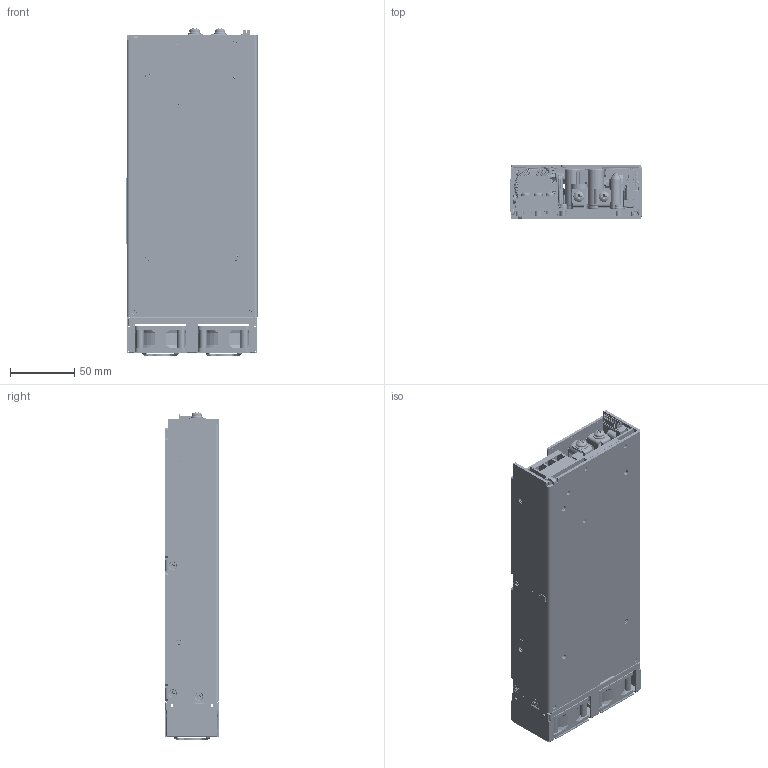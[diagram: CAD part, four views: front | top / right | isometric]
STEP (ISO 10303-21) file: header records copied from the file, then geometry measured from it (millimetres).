
FILE_DESCRIPTION (( 'STEP AP203' ), '1' );
FILE_NAME ('ASSY GSP750-EF.STEP', '2016-08-12T09:52:43', ( '' ), ( '' ), 'SwSTEP 2.0', 'SolidWorks 2015', '' );
FILE_SCHEMA (( 'CONFIG_CONTROL_DESIGN' ));
Length unit declared in the file: millimetre
Products named in the file (378): 10017794(BIAS HEATSINK); screw_pan_head_m3_10ht; 10017492(INSULATOR CHASSIS); 1001XXXX (BRIDGE FRONT PLATE); CONN SIP_1XNO_POLES_SEC2_2mm_ RA; Part1; ASSY GSP750_explode; Capacitor Disc_0.500 D; Inductor_Insulator; 1001XXXX(HTSK DCDC); label; Capacitor Elec_06mm D_10mm H; CORE EMI BEADS OD=3_7MM MAX (10014815); TO247_3P; CSM3-0; TAPE L7 AHM180; Capacitor Disc_0.300 D_0.300" C; JKB1-356N1H01; PQ3230(WINDING); cfsom3-5_5; GATE DRIVE TRF_2; SCREW M3X6 PFH 90DEG (10001669); SMT_capacitor; PQ2620; CFLM3-1; 10017397(BBAR100); tube for c128; Capacitor Elec_08mm D_hor-mount_13mm H; 10002397 (SCREW M3X8MM PPH SQ CONE); 1000XXXX (SCREW M3X5MM PPH SQ CONE); Trimpot_1; 10018286 (THERMAL GAP PAD); Capacitor Elec_13mm D; Screw_Sq Cone_no 8_01; Conn_JST_S8B-PHDSS-B; TRX_MAIN_WIND_4; Smt_DPAK_01; TO220_3P_01; 10018285 (THERMAL GAP PAD); TO220_2P_01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
Assembly tree (252 placements, depth 6):
  10017794(BIAS HEATSINK)
  10017492(INSULATOR CHASSIS)
  CONN SIP_1XNO_POLES_SEC2_2mm_ RA
  Part1
  Capacitor Disc_0.500 D
Bounding box: 101.7 x 41.9 x 254.03 mm (x, y, z)
Volume: 475899.7 mm3; surface area: 616836.5 mm2
Topology: 345 solids, 387 shells, 14014 faces, 38216 edges, 23084 vertices
Faces by surface type: plane 5744, cylinder 4644, torus 2868, cone 482, bspline 246, sphere 30
Entity records: 417760 total; most frequent: CARTESIAN_POINT 105159, ORIENTED_EDGE 60512, DIRECTION 58352, EDGE_CURVE 30270, AXIS2_PLACEMENT_3D 22822, VERTEX_POINT 18191, VECTOR 12708, LINE 12708
